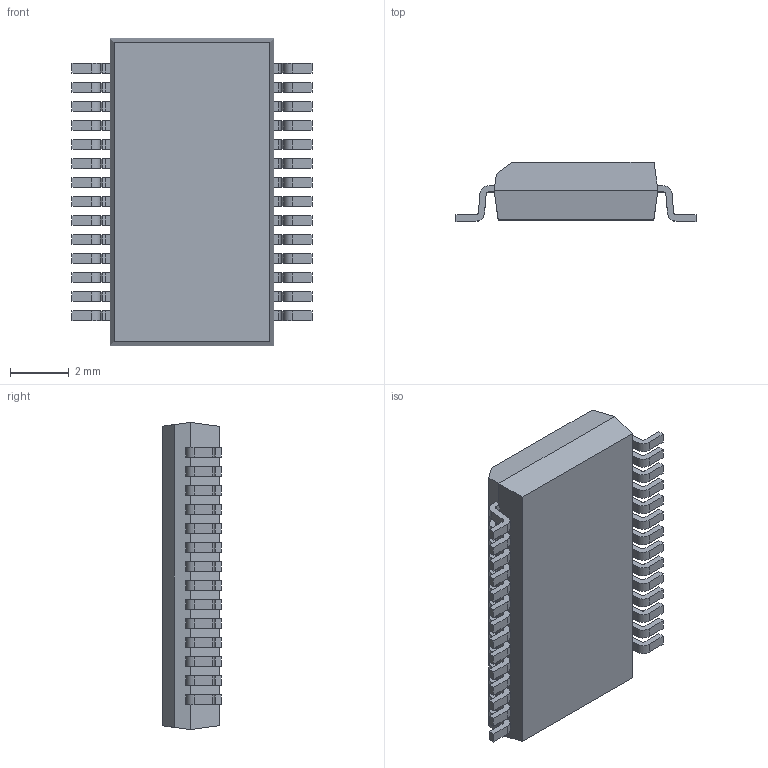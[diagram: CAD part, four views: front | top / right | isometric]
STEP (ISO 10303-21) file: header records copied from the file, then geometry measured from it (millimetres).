
FILE_DESCRIPTION (( 'STEP AP214' ), '1' );
FILE_NAME ('SOP65P780X200-28_MO-150.AH.STEP', '2014-10-28T13:32:06', ( 'Tester2' ), ( '' ), 'SwSTEP 2.0', 'SolidWorks 2012', '' );
FILE_SCHEMA (( 'AUTOMOTIVE_DESIGN' ));
Length unit declared in the file: millimetre
Products named in the file (1): SOP65P780X200-28_MO-150.AH
Bounding box: 8.2 x 2 x 10.5 mm (x, y, z)
Volume: 113.5 mm3; surface area: 232.1 mm2
Topology: 1 solids, 1 shells, 378 faces, 1121 edges, 746 vertices
Faces by surface type: plane 264, cylinder 114
Entity records: 16672 total; most frequent: CARTESIAN_POINT 2246, ORIENTED_EDGE 2242, DIRECTION 2107, EDGE_CURVE 1121, LINE 893, VECTOR 893, VERTEX_POINT 746, AXIS2_PLACEMENT_3D 607
